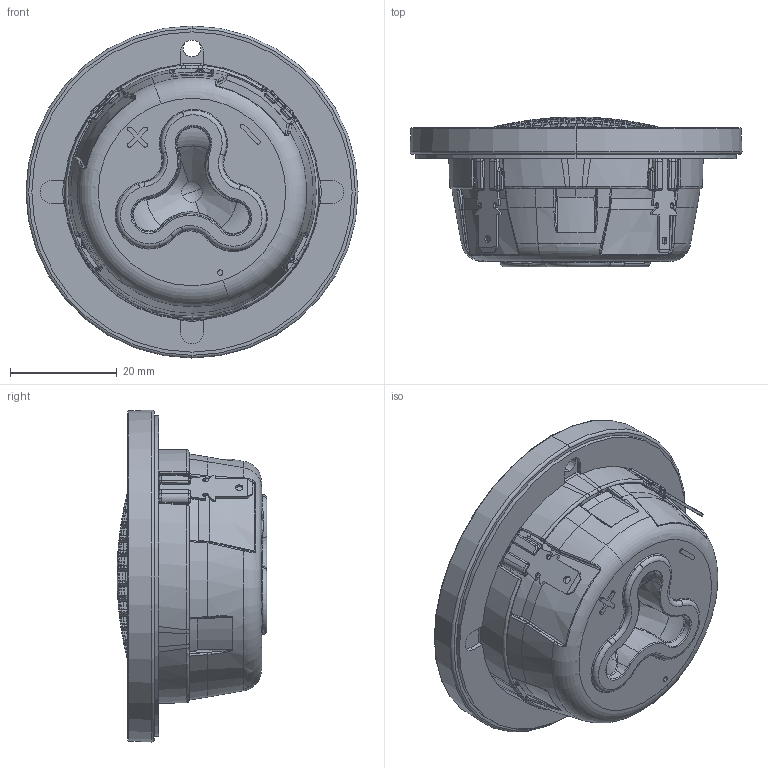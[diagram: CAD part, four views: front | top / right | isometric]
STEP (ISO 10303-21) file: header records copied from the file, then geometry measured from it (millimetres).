
FILE_DESCRIPTION (( 'STEP AP214' ), '1' );
FILE_NAME ('D3004-604005.STEP', '2020-12-15T10:39:51', ( '' ), ( '' ), 'SwSTEP 2.0', 'SolidWorks 2019', '' );
FILE_SCHEMA (( 'AUTOMOTIVE_DESIGN' ));
Length unit declared in the file: millimetre
Products named in the file (1): D3004-604005
Bounding box: 62.21 x 28.08 x 62.21 mm (x, y, z)
Volume: 43549.9 mm3; surface area: 14344.6 mm2
Topology: 1 solids, 2 shells, 1969 faces, 5857 edges, 3761 vertices
Faces by surface type: plane 1122, cylinder 297, torus 222, bspline 220, cone 79, sphere 29
Entity records: 95414 total; most frequent: CARTESIAN_POINT 20603, ORIENTED_EDGE 11658, DIRECTION 11435, EDGE_CURVE 5829, AXIS2_PLACEMENT_3D 4816, VERTEX_POINT 3761, CIRCLE 3066, EDGE_LOOP 2206
